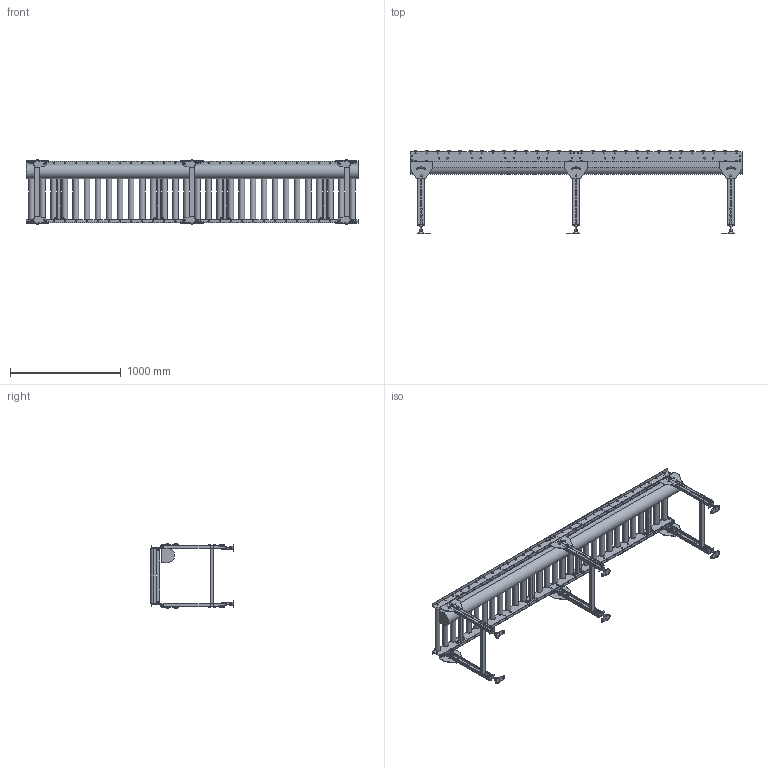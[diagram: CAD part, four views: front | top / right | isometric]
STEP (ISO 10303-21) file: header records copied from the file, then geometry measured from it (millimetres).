
FILE_DESCRIPTION (( 'STEP AP214' ), '1' );
FILE_NAME ('SWD-MCD50-ストレート-100P-500.STEP', '2022-08-01T01:55:07', ( '' ), ( '' ), 'SwSTEP 2.0', 'SolidWorks 2017', '' );
FILE_SCHEMA (( 'AUTOMOTIVE_DESIGN' ));
Length unit declared in the file: millimetre
Products named in the file (1): SWD-MCD50-ストレート-100P-500
Bounding box: 3000 x 750 x 584.4 mm (x, y, z)
Volume: 79112283.7 mm3; surface area: 7249716.5 mm2
Topology: 28 solids, 74 shells, 3822 faces, 10188 edges, 6472 vertices
Faces by surface type: plane 2493, cylinder 1317, cone 12
Entity records: 162845 total; most frequent: DIRECTION 21380, CARTESIAN_POINT 20879, ORIENTED_EDGE 20376, EDGE_CURVE 10188, AXIS2_PLACEMENT_3D 7381, LINE 6618, VECTOR 6618, VERTEX_POINT 6472
